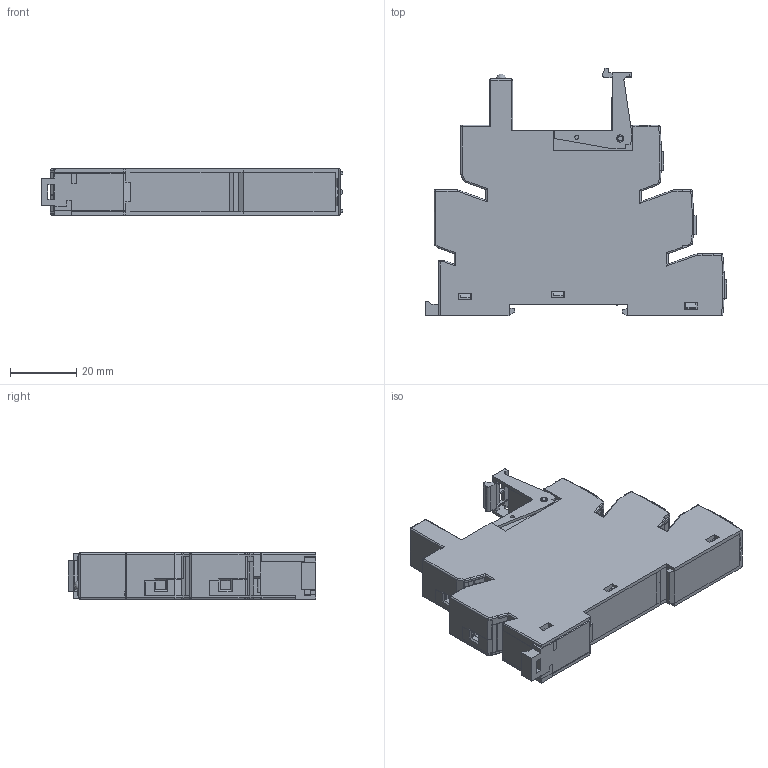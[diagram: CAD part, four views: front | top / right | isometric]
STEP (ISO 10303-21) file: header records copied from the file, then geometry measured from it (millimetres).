
FILE_DESCRIPTION(('STEP AP214'),'2;1');
FILE_NAME('9302_catalogo_FINITO.stp','2012-03-16T13:47:13',(''),(''),'2007.1.106','THINKDESIGN','');
FILE_SCHEMA(('AUTOMOTIVE_DESIGN'));
Length unit declared in the file: millimetre
Products named in the file (1): top
Bounding box: 91.12 x 74.9 x 14 mm (x, y, z)
Surface area: 23543 mm2 (no closed solid volume)
Topology: 0 solids, 0 shells, 966 faces, 5711 edges, 5708 vertices
Faces by surface type: plane 830, cylinder 119, bspline 17
Full cylindrical faces by diameter (mm): 1.2 x2, 1.5 x2, 2.2 x2, 4 x8
Entity records: 48912 total; most frequent: CARTESIAN_POINT 14790, DIRECTION 7375, COMPOSITE_CURVE_SEGMENT 5708, TRIMMED_CURVE 5313, VECTOR 5151, LINE 5151, AXIS2_PLACEMENT_3D 1112, OUTER_BOUNDARY_CURVE 966
